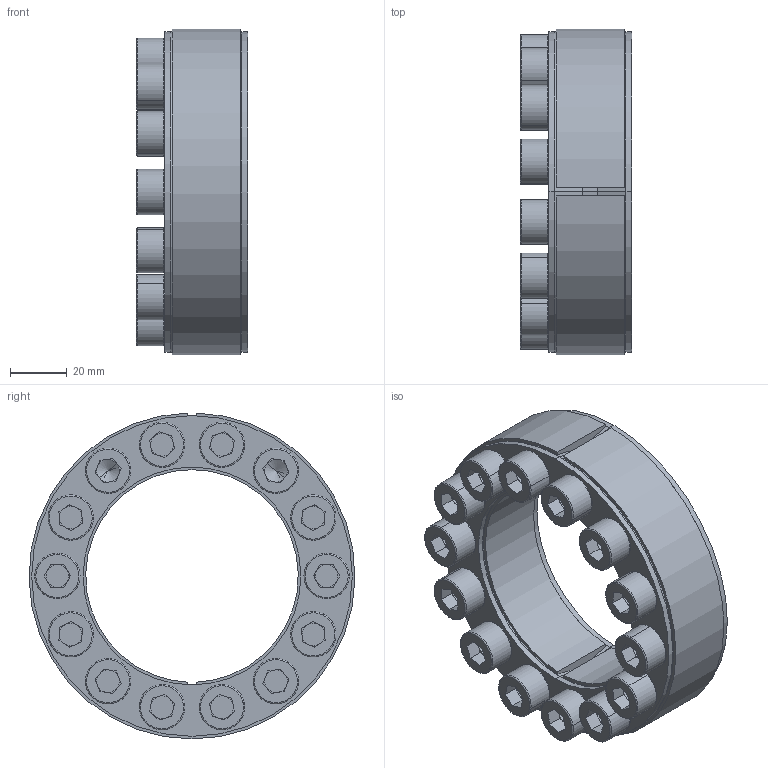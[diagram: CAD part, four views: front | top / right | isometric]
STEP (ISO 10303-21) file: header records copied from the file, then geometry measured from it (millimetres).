
FILE_DESCRIPTION (( 'STEP AP203' ), '1' );
FILE_NAME ('D1-75-115 Assy.STEP', '2017-10-11T05:59:28', ( 'MYCOM' ), ( '' ), 'SwSTEP 2.0', 'SolidWorks 2015', '' );
FILE_SCHEMA (( 'CONFIG_CONTROL_DESIGN' ));
Length unit declared in the file: millimetre
Products named in the file (1): D1-75-115 Assy
Bounding box: 39.2 x 114.99 x 114.98 mm (x, y, z)
Surface area: 59499.2 mm2 (no closed solid volume)
Topology: 0 solids, 32 shells, 364 faces, 896 edges, 556 vertices
Faces by surface type: plane 200, cylinder 95, torus 56, cone 13
Entity records: 10749 total; most frequent: DIRECTION 2041, CARTESIAN_POINT 1855, ORIENTED_EDGE 1608, EDGE_CURVE 892, AXIS2_PLACEMENT_3D 792, VERTEX_POINT 556, LINE 457, VECTOR 457
